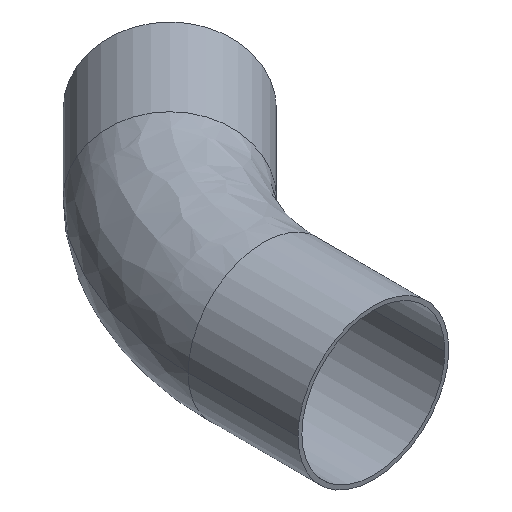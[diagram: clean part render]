
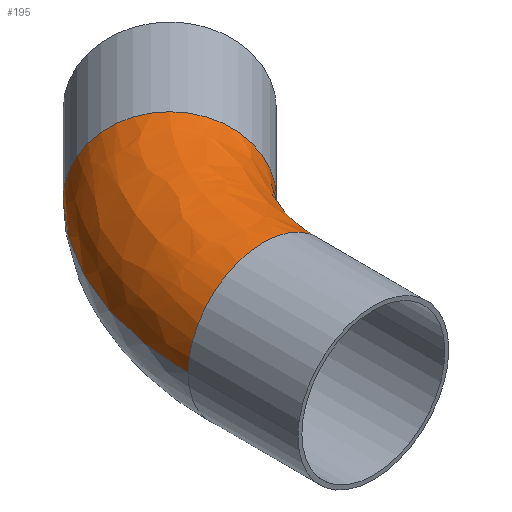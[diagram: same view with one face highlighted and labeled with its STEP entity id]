
A CAD part, isometric view. The second image highlights one B-rep face of the part: STEP entity #195.
In plain terms, the highlighted free-form (B-spline) face has degree [3, 3] with [4, 4] control points.
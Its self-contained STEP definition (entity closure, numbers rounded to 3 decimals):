
#11 = CIRCLE ( 'NONE', #330, 31.75 ) ;
#39 = DIRECTION ( 'NONE',  ( 0., 0., -1. ) ) ;
#48 = ORIENTED_EDGE ( 'NONE', *, *, #394, .T. ) ;
#71 = CARTESIAN_POINT ( 'NONE',  ( 5.433, 136.034, 63.5 ) ) ;
#90 = CARTESIAN_POINT ( 'NONE',  ( 31.75, 63.32, 0. ) ) ;
#99 = CIRCLE ( 'NONE', #425, 63.45 ) ;
#101 = CARTESIAN_POINT ( 'NONE',  ( 50.334, 91.133, 0. ) ) ;
#108 = CARTESIAN_POINT ( 'NONE',  ( 31.75, 63.32, 63.5 ) ) ;
#118 = CARTESIAN_POINT ( 'NONE',  ( 38.276, 79.075, 0. ) ) ;
#143 = ORIENTED_EDGE ( 'NONE', *, *, #196, .T. ) ;
#154 = EDGE_LOOP ( 'NONE', ( #143, #48, #169, #361 ) ) ;
#155 = VERTEX_POINT ( 'NONE', #101 ) ;
#158 = CARTESIAN_POINT ( 'NONE',  ( 5.433, 136.034, 0. ) ) ;
#168 = CARTESIAN_POINT ( 'NONE',  ( -18.693, 111.908, 0. ) ) ;
#169 = ORIENTED_EDGE ( 'NONE', *, *, #320, .T. ) ;
#173 = CARTESIAN_POINT ( 'NONE',  ( 50.334, 91.133, 0. ) ) ;
#177 = CARTESIAN_POINT ( 'NONE',  ( 0., 46.267, 0. ) ) ;
#194 = VERTEX_POINT ( 'NONE', #407 ) ;
#195 = ADVANCED_FACE ( 'NONE', ( #365 ), #338, .T. ) ;
#196 = EDGE_CURVE ( 'NONE', #313, #194, #11, .T. ) ;
#197 = CARTESIAN_POINT ( 'NONE',  ( 38.276, 79.075, 63.5 ) ) ;
#204 = DIRECTION ( 'NONE',  ( -1., 0., 0. ) ) ;
#206 = CARTESIAN_POINT ( 'NONE',  ( 5.433, 136.034, 0. ) ) ;
#207 = CARTESIAN_POINT ( 'NONE',  ( 95.2, 46.267, 0. ) ) ;
#212 = CARTESIAN_POINT ( 'NONE',  ( -31.75, 80.386, 0. ) ) ;
#220 = DIRECTION ( 'NONE',  ( 0., 0., -1. ) ) ;
#221 = CARTESIAN_POINT ( 'NONE',  ( -18.693, 111.908, 63.5 ) ) ;
#225 = CARTESIAN_POINT ( 'NONE',  ( 31.75, 46.267, 63.5 ) ) ;
#242 = CARTESIAN_POINT ( 'NONE',  ( 95.2, 46.267, 0. ) ) ;
#277 = DIRECTION ( 'NONE',  ( -1., 0., 0. ) ) ;
#291 = DIRECTION ( 'NONE',  ( 0., 1., 0. ) ) ;
#295 = DIRECTION ( 'NONE',  ( -1., 0., 0. ) ) ;
#300 = CARTESIAN_POINT ( 'NONE',  ( -31.75, 46.267, 0. ) ) ;
#306 = CARTESIAN_POINT ( 'NONE',  ( -31.75, 80.386, 63.5 ) ) ;
#313 = VERTEX_POINT ( 'NONE', #430 ) ;
#317 = CIRCLE ( 'NONE', #346, 31.75 ) ;
#320 = EDGE_CURVE ( 'NONE', #155, #440, #317, .T. ) ;
#327 = EDGE_CURVE ( 'NONE', #313, #440, #453, .T. ) ;
#330 = AXIS2_PLACEMENT_3D ( 'NONE', #177, #291, #277 ) ;
#338 =( BOUNDED_SURFACE ( )  B_SPLINE_SURFACE ( 3, 3, ( 
 ( #300, #212, #168, #158 ),
 ( #372, #306, #221, #71 ),
 ( #225, #108, #197, #363 ),
 ( #348, #90, #118, #173 ) ),
 .UNSPECIFIED., .F., .F., .T. ) 
 B_SPLINE_SURFACE_WITH_KNOTS ( ( 4, 4 ),
 ( 4, 4 ),
 ( 0., 1. ),
 ( 0., 1. ),
 .UNSPECIFIED. ) 
 GEOMETRIC_REPRESENTATION_ITEM ( )  RATIONAL_B_SPLINE_SURFACE ( (
 ( 1., 0.949, 0.949, 1.),
 ( 0.333, 0.316, 0.316, 0.333),
 ( 0.333, 0.316, 0.316, 0.333),
 ( 1., 0.949, 0.949, 1.) ) ) 
 REPRESENTATION_ITEM ( '' )  SURFACE ( )  );
#346 = AXIS2_PLACEMENT_3D ( 'NONE', #426, #441, #439 ) ;
#348 = CARTESIAN_POINT ( 'NONE',  ( 31.75, 46.267, 0. ) ) ;
#361 = ORIENTED_EDGE ( 'NONE', *, *, #327, .F. ) ;
#363 = CARTESIAN_POINT ( 'NONE',  ( 50.334, 91.133, 63.5 ) ) ;
#365 = FACE_OUTER_BOUND ( 'NONE', #154, .T. ) ;
#372 = CARTESIAN_POINT ( 'NONE',  ( -31.75, 46.267, 63.5 ) ) ;
#394 = EDGE_CURVE ( 'NONE', #194, #155, #99, .T. ) ;
#396 = AXIS2_PLACEMENT_3D ( 'NONE', #242, #39, #295 ) ;
#407 = CARTESIAN_POINT ( 'NONE',  ( 31.75, 46.267, 0. ) ) ;
#425 = AXIS2_PLACEMENT_3D ( 'NONE', #207, #220, #204 ) ;
#426 = CARTESIAN_POINT ( 'NONE',  ( 27.883, 113.583, 0. ) ) ;
#430 = CARTESIAN_POINT ( 'NONE',  ( -31.75, 46.267, 0. ) ) ;
#439 = DIRECTION ( 'NONE',  ( -0.707, 0.707, 0. ) ) ;
#440 = VERTEX_POINT ( 'NONE', #206 ) ;
#441 = DIRECTION ( 'NONE',  ( -0.707, -0.707, 0. ) ) ;
#453 = CIRCLE ( 'NONE', #396, 126.95 ) ;
